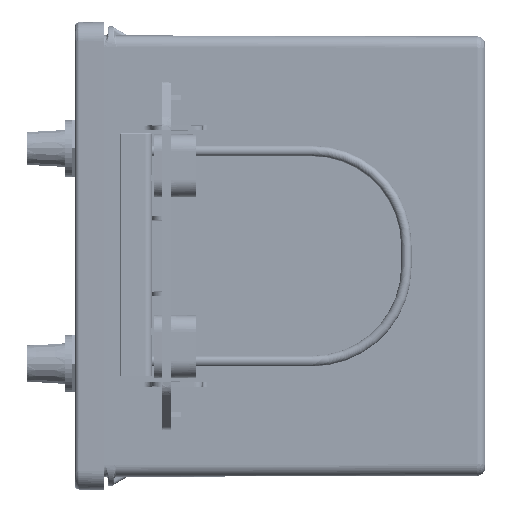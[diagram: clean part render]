
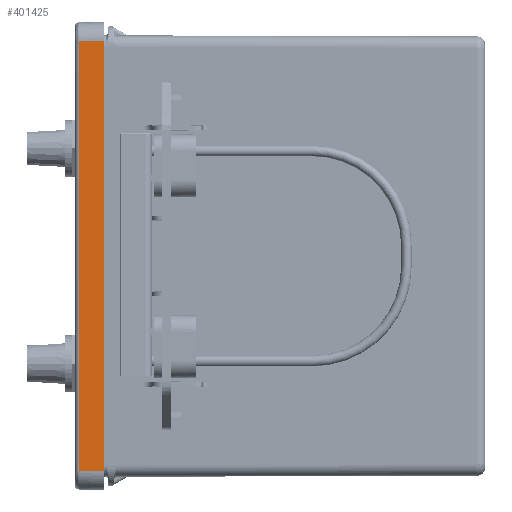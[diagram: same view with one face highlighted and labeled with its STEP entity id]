
A CAD part, left-side view. The second image highlights one B-rep face of the part: STEP entity #401425.
In plain terms, the highlighted planar face has unit normal (-1, 0.018, 0).
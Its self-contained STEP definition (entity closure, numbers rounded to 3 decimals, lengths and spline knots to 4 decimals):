
#13499 = DIRECTION ( 'NONE',  ( -1., 0.017, 0. ) ) ;
#37908 = LINE ( 'NONE', #344632, #203496 ) ;
#43790 = VECTOR ( 'NONE', #386302, 39.3701 ) ;
#54802 = CARTESIAN_POINT ( 'NONE',  ( -9.4999, 7.5998, 4.0177 ) ) ;
#74087 = EDGE_LOOP ( 'NONE', ( #285680, #355328, #326494, #501406 ) ) ;
#75606 = CARTESIAN_POINT ( 'NONE',  ( -9.4999, 7.5998, -4.0177 ) ) ;
#81467 = LINE ( 'NONE', #469746, #229861 ) ;
#91995 = AXIS2_PLACEMENT_3D ( 'NONE', #134580, #13499, #480749 ) ;
#104946 = VERTEX_POINT ( 'NONE', #128612 ) ;
#128612 = CARTESIAN_POINT ( 'NONE',  ( -9.5079, 7.1457, -4.0256 ) ) ;
#134580 = CARTESIAN_POINT ( 'NONE',  ( -9.5079, 7.1457, 0. ) ) ;
#174012 = FACE_OUTER_BOUND ( 'NONE', #74087, .T. ) ;
#179760 = VERTEX_POINT ( 'NONE', #54802 ) ;
#194219 = VERTEX_POINT ( 'NONE', #390262 ) ;
#199455 = CARTESIAN_POINT ( 'NONE',  ( -9.5079, 7.1457, 4.0256 ) ) ;
#202016 = VECTOR ( 'NONE', #331718, 39.3701 ) ;
#203496 = VECTOR ( 'NONE', #206802, 39.3701 ) ;
#206802 = DIRECTION ( 'NONE',  ( 0., 0., 1. ) ) ;
#214518 = CARTESIAN_POINT ( 'NONE',  ( -9.4999, 7.5998, -4.0177 ) ) ;
#229861 = VECTOR ( 'NONE', #377002, 39.3701 ) ;
#285680 = ORIENTED_EDGE ( 'NONE', *, *, #421560, .T. ) ;
#310631 = EDGE_CURVE ( 'NONE', #104946, #406693, #37908, .T. ) ;
#326494 = ORIENTED_EDGE ( 'NONE', *, *, #384748, .T. ) ;
#331718 = DIRECTION ( 'NONE',  ( 0., 0., 1. ) ) ;
#344632 = CARTESIAN_POINT ( 'NONE',  ( -9.5079, 7.1457, -4.0256 ) ) ;
#355328 = ORIENTED_EDGE ( 'NONE', *, *, #310631, .T. ) ;
#377002 = DIRECTION ( 'NONE',  ( 0.017, 1., -0.017 ) ) ;
#384748 = EDGE_CURVE ( 'NONE', #406693, #179760, #81467, .T. ) ;
#386302 = DIRECTION ( 'NONE',  ( -0.017, -1., -0.017 ) ) ;
#390262 = CARTESIAN_POINT ( 'NONE',  ( -9.4999, 7.5998, -4.0177 ) ) ;
#401425 = ADVANCED_FACE ( 'NONE', ( #174012 ), #522962, .T. ) ;
#406693 = VERTEX_POINT ( 'NONE', #199455 ) ;
#421560 = EDGE_CURVE ( 'NONE', #194219, #104946, #470733, .T. ) ;
#467811 = EDGE_CURVE ( 'NONE', #194219, #179760, #545607, .T. ) ;
#469746 = CARTESIAN_POINT ( 'NONE',  ( -9.5079, 7.1457, 4.0256 ) ) ;
#470733 = LINE ( 'NONE', #214518, #43790 ) ;
#480749 = DIRECTION ( 'NONE',  ( 0., 0., -1. ) ) ;
#501406 = ORIENTED_EDGE ( 'NONE', *, *, #467811, .F. ) ;
#522962 = PLANE ( 'NONE',  #91995 ) ;
#545607 = LINE ( 'NONE', #75606, #202016 ) ;
